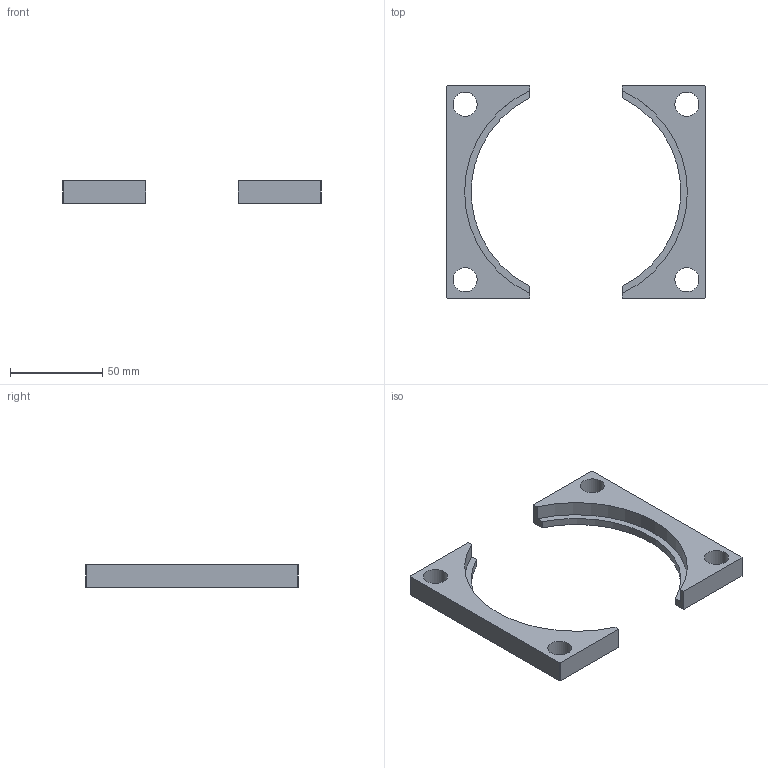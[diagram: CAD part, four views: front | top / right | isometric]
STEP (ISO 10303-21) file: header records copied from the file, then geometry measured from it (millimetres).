
FILE_DESCRIPTION(/* description */ (''),/* implementation_level */ '2;1');
FILE_NAME(/* name */ 'C:\Users\Jefferson\Desktop\Biblioteca Pro Nitro 2024\Flanges\PNB-32-XXX\PNB-32-120.stp',/* time_stamp */ '2024-01-10T17:15:31-03:00',/* author */ ('Jefferson'),/* organization */ (''),/* preprocessor_version */ 'ST-DEVELOPER v18.1',/* originating_system */ 'Autodesk Inventor 2021',/* authorisation */ '');
FILE_SCHEMA (('AUTOMOTIVE_DESIGN { 1 0 10303 214 3 1 1 }'));
Length unit declared in the file: millimetre
Products named in the file (1): PNB-32-120
Bounding box: 140 x 115 x 12 mm (x, y, z)
Volume: 54834.4 mm3; surface area: 20665.4 mm2
Topology: 2 solids, 2 shells, 184 faces, 498 edges, 332 vertices
Faces by surface type: plane 100, bspline 76, cylinder 8
Full cylindrical faces by diameter (mm): 13 x4
Entity records: 6190 total; most frequent: CARTESIAN_POINT 2003, ORIENTED_EDGE 996, DIRECTION 580, EDGE_CURVE 498, VERTEX_POINT 332, LINE 330, VECTOR 330, EDGE_LOOP 206
